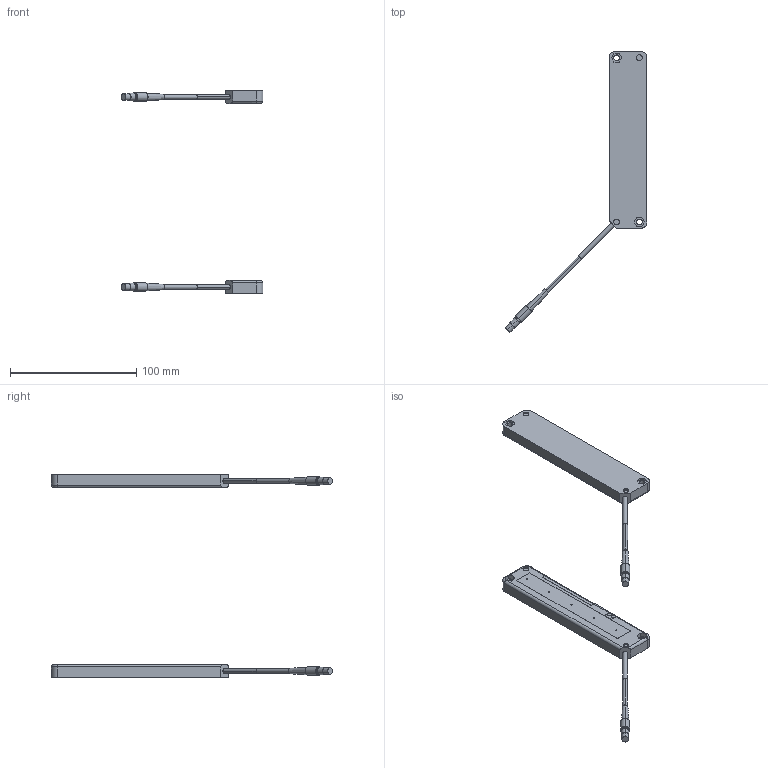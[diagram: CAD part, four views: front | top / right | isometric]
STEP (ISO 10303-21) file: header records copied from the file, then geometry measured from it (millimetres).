
FILE_DESCRIPTION (( 'STEP AP203' ), '1' );
FILE_NAME ('NA1-PK5.STEP', '2005-09-09T05:35:46', ( '' ), ( '' ), 'SwSTEP 2.0', 'SolidWorks 2004073', '' );
FILE_SCHEMA (( 'CONFIG_CONTROL_DESIGN' ));
Length unit declared in the file: millimetre
Products named in the file (3): NA1-PK5D_蹬怮椔; NA1-PK5P_蹬怮椔; NA1-PK5
Assembly tree (2 placements, depth 2):
  NA1-PK5
    NA1-PK5P_蹬怮椔
    NA1-PK5D_蹬怮椔
Bounding box: 112.29 x 222.4 x 160 mm (x, y, z)
Volume: 85131.5 mm3; surface area: 26976.9 mm2
Topology: 4 solids, 4 shells, 244 faces, 574 edges, 377 vertices
Faces by surface type: plane 141, cylinder 93, torus 6, cone 4
Entity records: 7350 total; most frequent: CARTESIAN_POINT 1272, DIRECTION 1247, ORIENTED_EDGE 1148, EDGE_CURVE 574, AXIS2_PLACEMENT_3D 448, VERTEX_POINT 377, LINE 351, VECTOR 351
